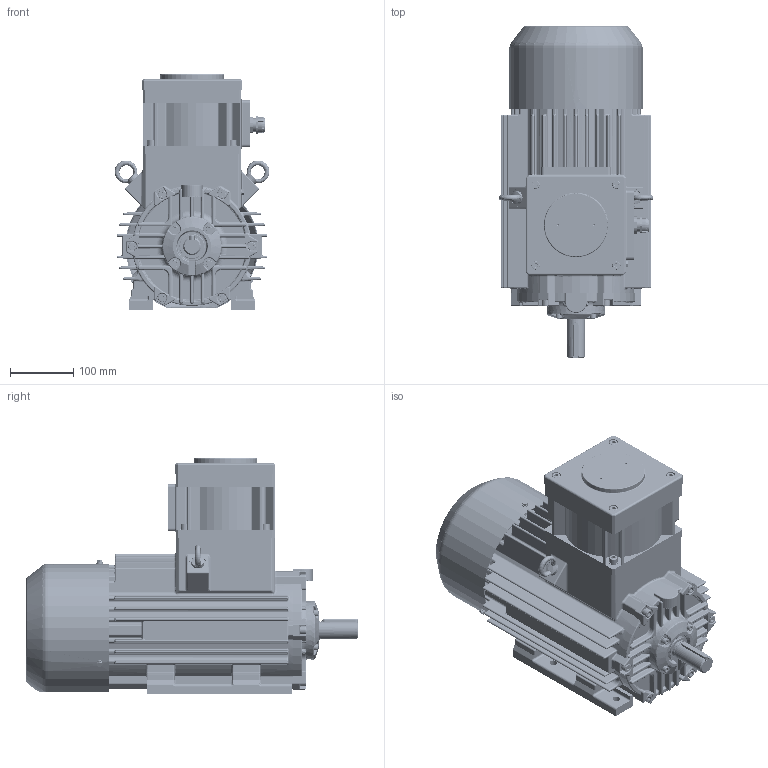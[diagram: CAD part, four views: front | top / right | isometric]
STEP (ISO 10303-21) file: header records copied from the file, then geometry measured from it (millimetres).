
FILE_DESCRIPTION(/* description */ ('Unknown'),/* implementation_level */ '2;1');
FILE_NAME(/* name */ '(E)cSTe100L(2-8)-IE(2,3)',/* time_stamp */ '2021-12-17T11:00:10+01:00',/* author */ ('Unknown'),/* organization */ ('Unknown'),/* preprocessor_version */ 'ST-DEVELOPER v16.7',/* originating_system */ 'DEX',/* authorisation */ $);
FILE_SCHEMA (('AUTOMOTIVE_DESIGN {1 0 10303 214 3 1 1}'));
Length unit declared in the file: millimetre
Products named in the file (1): (E)cSTe100L(2-8)-IE(2,3)
Bounding box: 244.02 x 523 x 371 mm (x, y, z)
Volume: 16219501.8 mm3; surface area: 1240705.3 mm2
Topology: 3 solids, 33 shells, 5291 faces, 13784 edges, 8494 vertices
Faces by surface type: cylinder 2004, plane 1774, torus 538, bspline 458, cone 326, sphere 191
Full cylindrical faces by diameter (mm): 3.2 x4, 4.019 x3, 4.134 x3, 4.48 x1, 4.773 x4, 4.917 x22, 5 x7, 5.3 x4, 6 x10, 6.466 x24, 6.6 x4, 6.647 x36, 6.88 x4, 8 x50, 8.376 x13, 9 x20, 10 x8, 11 x4, 12 x4, 13 x18, 15 x5, 15.205 x1, 16.779 x1, 17.307 x1, 18.487 x1, 21.24 x1, 22.376 x1, 23.376 x1, 27.4 x1, 28 x3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
Entity records: 195919 total; most frequent: CARTESIAN_POINT 42758, DIRECTION 26065, ORIENTED_EDGE 25486, EDGE_CURVE 12743, AXIS2_PLACEMENT_3D 10239, VERTEX_POINT 8193, FACE_BOUND 6344, EDGE_LOOP 6307
